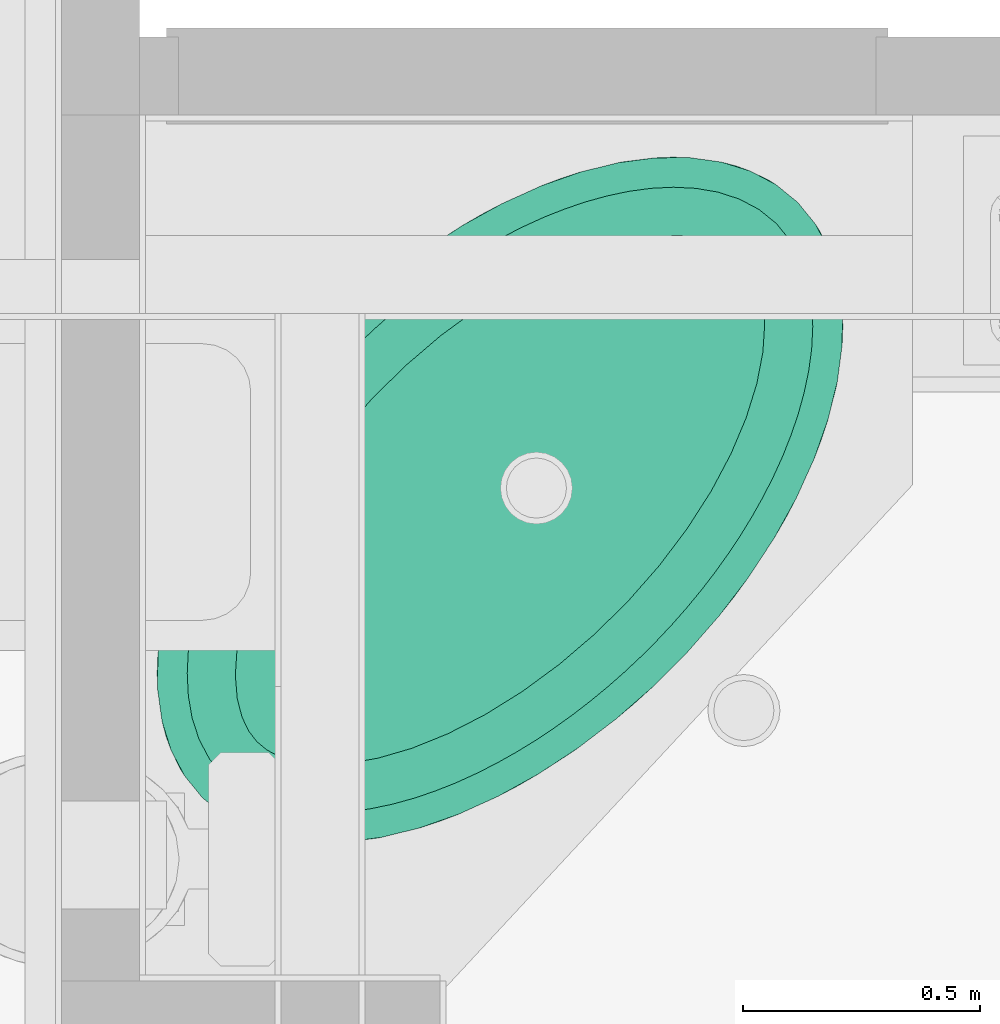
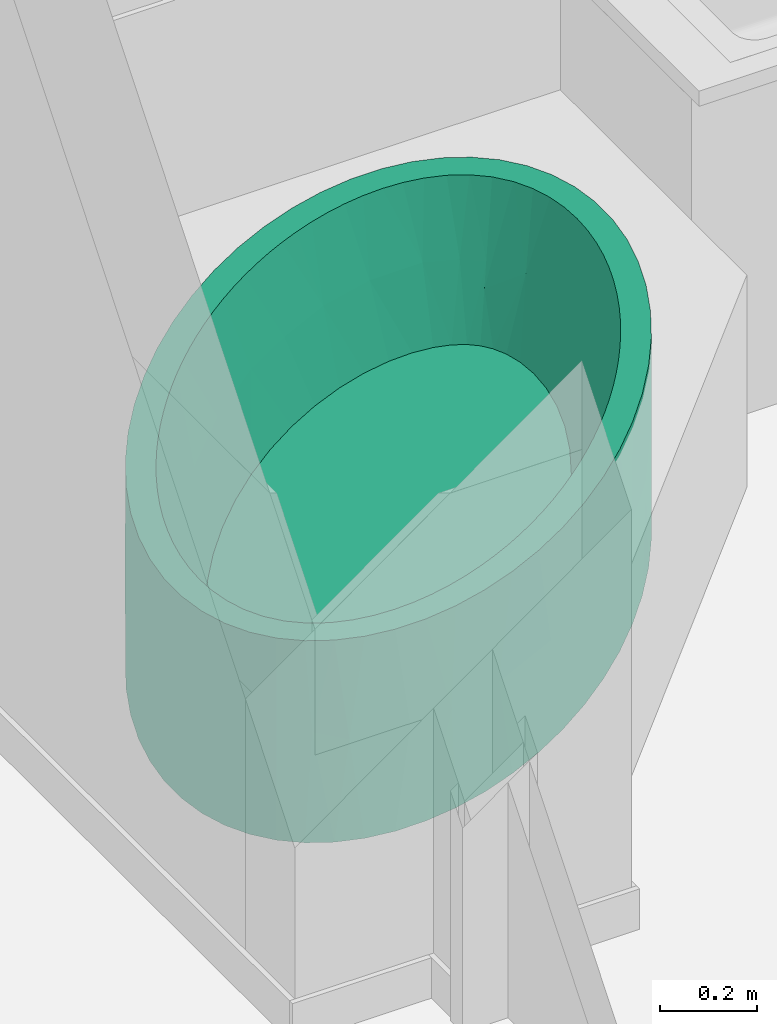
# One storey, part 46 of 60: 1 flow terminal.
"""IFC2X3 building model written with IfcOpenShell, lengths in feet."""

from ifc_helpers import new_model, entity, si_unit, converted_unit, direction, origin, place, context, subcontext, project, spatial, faceted_brep, source, transform, mapped, material, type_object, type_shapes, element, save


model = new_model("IFC2X3")

# Units and contexts
model_context = context("Model", 3, precision=0.0001, world=origin(), true_north=direction((6.123031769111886e-17, 1.0)))
plan_context = context("Plan", 3, precision=0.0001, world=origin(), true_north=direction((6.123031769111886e-17, 1.0)))
body_context = subcontext(model_context, "Body", "Model", "MODEL_VIEW")
ifc_project = project(units=[converted_unit("LENGTHUNIT", "FOOT", entity("IfcLengthMeasure", 0.3048), si_unit("LENGTHUNIT", "METRE"), dimensions=[1, 0, 0, 0, 0, 0, 0]), converted_unit("AREAUNIT", "SQUARE FOOT", entity("IfcAreaMeasure", 0.09290304), si_unit("AREAUNIT", "SQUARE_METRE"), dimensions=[2, 0, 0, 0, 0, 0, 0]), converted_unit("PLANEANGLEUNIT", "DEGREE", entity("IfcPlaneAngleMeasure", 0.017453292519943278), si_unit("PLANEANGLEUNIT", "RADIAN"), dimensions=[0, 0, 0, 0, 0, 0, 0])], contexts=[model_context, plan_context])

# Site, building, storey
site_placement = place(None, origin())
site = spatial("IfcSite", under=ifc_project, at=site_placement, Name="Default", CompositionType="ELEMENT")
building_placement = place(site_placement, origin())
building = spatial("IfcBuilding", under=site, at=building_placement, CompositionType="ELEMENT")
storey_placement = place(building_placement, origin())
storey = spatial("IfcBuildingStorey", under=building, at=storey_placement, Name="First floor", CompositionType="ELEMENT", Elevation=0.0)

# Flow terminal
ifc_material = material(Name="Default New Material")
distribution_element_type = type_object("IfcDistributionElementType", Name="Plumbing Fixtures 7:Plumbing Fixtures 7", material=ifc_material)
shared_shape = source(origin(), body_context, "Body", "Brep", [
    faceted_brep([(-5.095247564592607, 44.813153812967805, 12.458333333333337), (-5.172077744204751, 45.09890632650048, 12.458333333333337), (-5.32489495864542, 44.823074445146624, 12.458333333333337), (-5.165754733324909, 44.674755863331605, 12.458333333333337), (-5.0190866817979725, 44.94870035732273, 12.458333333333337), (-4.937772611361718, 45.0811677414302, 12.458333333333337), (-4.993579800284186, 45.37115108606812, 12.458333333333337), (-4.851811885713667, 45.210337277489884, 12.458333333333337), (-4.761263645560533, 45.33658212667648, 12.458333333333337), (-4.791815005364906, 45.636127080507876, 12.458333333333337), (-4.666420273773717, 45.459772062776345, 12.458333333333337), (-4.567684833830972, 45.579584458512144, 12.458333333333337), (-4.569511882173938, 45.890250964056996, 12.458333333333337), (-4.465059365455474, 45.69619392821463, 12.458333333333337), (-4.358737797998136, 45.80949730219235, 12.458333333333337), (-4.329676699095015, 46.13008614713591, 12.458333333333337), (-4.248910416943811, 45.91933755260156, 12.458333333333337), (-4.135607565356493, 46.02565695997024, 12.458333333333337), (-4.018994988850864, 46.12825436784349, 12.458333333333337), (-4.075552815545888, 46.352389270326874, 12.458333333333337), (-3.8991513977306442, 46.227008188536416, 12.458333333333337), (-3.7759899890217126, 46.32185741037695, 12.458333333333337), (-3.8105768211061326, 46.55415406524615, 12.458333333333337), (-3.649767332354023, 46.4124048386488, 12.458333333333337), (-3.520588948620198, 46.4983560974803, 12.458333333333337), (-3.538332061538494, 46.73265200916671, 12.458333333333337), (-3.3881228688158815, 46.57966483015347, 12.458333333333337), (-3.2525880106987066, 46.65582968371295, 12.458333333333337), (-3.2625001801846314, 46.88546922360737, 12.458333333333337), (-3.114174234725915, 46.72634321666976, 12.458333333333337), (-2.9729149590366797, 46.79071239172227, 12.458333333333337), (-2.986811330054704, 47.0105391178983, 12.458333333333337), (-2.828835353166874, 46.84831729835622, 12.458333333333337), (-2.714993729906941, 47.106170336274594, 12.458333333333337), (-2.681977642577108, 46.898430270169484, 12.458333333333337), (-2.5323411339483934, 46.94011665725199, 12.458333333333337), (-2.4507232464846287, 47.171069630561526, 12.458333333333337), (-2.3804158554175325, 46.972116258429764, 12.458333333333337), (-2.2263537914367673, 46.99295764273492, 12.458333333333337), (-2.197573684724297, 47.20435934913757, 12.458333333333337), (-2.071058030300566, 47.00067257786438, 12.458333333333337), (-1.9589684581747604, 47.20558930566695, 12.458333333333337), (-1.915940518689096, 46.99286653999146, 12.458333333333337), (-1.7381342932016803, 47.17474286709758, 12.458333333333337), (-1.7633028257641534, 46.966730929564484, 12.458333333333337), (-1.5380575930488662, 47.11223717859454, 12.458333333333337), (-1.6154089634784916, 46.91877368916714, 12.458333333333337), (-1.4783305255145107, 46.84646259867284, 12.458333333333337), (-1.3614440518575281, 47.01891752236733, 12.458333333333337), (-1.3579959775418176, 46.7487319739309, 12.458333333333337), (-1.2106820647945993, 46.896045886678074, 12.458333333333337), (-1.087810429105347, 46.745283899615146, 12.458333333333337), (-1.2602800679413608, 46.628386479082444, 12.458333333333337), (-0.9944907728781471, 46.5686703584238, 12.458333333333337), (-1.1879524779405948, 46.491321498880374, 12.458333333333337), (-1.1399931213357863, 46.343422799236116, 12.458333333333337), (-0.9319850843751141, 46.36859365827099, 12.458333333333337), (-1.1138565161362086, 46.190786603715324, 12.458333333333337), (-0.901138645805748, 46.147759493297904, 12.458333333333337), (-1.1060536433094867, 46.035667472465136, 12.458333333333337), (-0.9023686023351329, 45.90915426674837, 12.458333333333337), (-1.113764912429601, 45.88037183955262, 12.458333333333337), (-0.9356583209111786, 45.656004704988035, 12.458333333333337), (-1.134604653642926, 45.726309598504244, 12.458333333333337), (-1.1666320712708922, 45.57439536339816, 12.458333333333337), (-1.0005576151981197, 45.39173422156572, 12.458333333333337), (-1.2083345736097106, 45.42475506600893, 12.458333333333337), (-1.258418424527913, 45.2778924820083, 12.458333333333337), (-1.096188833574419, 45.11991662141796, 12.458333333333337), (-1.3160187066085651, 45.133808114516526, 12.458333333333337), (-1.2212587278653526, 44.84422777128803, 12.458333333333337), (-1.3803954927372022, 44.99255351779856, 12.458333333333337), (-1.4509102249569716, 44.85414074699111, 12.458333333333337), (-1.3740759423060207, 44.56839588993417, 12.458333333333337), (-1.5270670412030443, 44.718601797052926, 12.458333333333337), (-1.6083795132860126, 44.58613691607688, 12.458333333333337), (-1.5525738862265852, 44.29615113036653, 12.458333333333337), (-1.6943416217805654, 44.45696519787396, 12.458333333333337), (-1.7848779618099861, 44.33073633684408, 12.458333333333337), (-1.7543386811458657, 44.03117513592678, 12.458333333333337), (-1.879710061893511, 44.20755945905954, 12.458333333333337), (-1.9784669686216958, 44.08771996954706, 12.458333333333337), (-1.9766418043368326, 43.77705125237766, 12.458333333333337), (-2.0810815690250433, 43.971122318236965, 12.458333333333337), (-2.187401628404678, 43.85781963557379, 12.458333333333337), (-2.297228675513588, 43.74797880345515, 12.458333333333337), (-2.216476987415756, 43.537216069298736, 12.458333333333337), (-2.410531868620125, 43.6416582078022, 12.458333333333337), (-2.5271562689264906, 43.53904991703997, 12.458333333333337), (-2.4706008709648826, 43.314912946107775, 12.458333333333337), (-2.6469719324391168, 43.44031822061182, 12.458333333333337), (-2.7701496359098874, 43.34545526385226, 12.458333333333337), (-2.7355768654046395, 43.113148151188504, 12.458333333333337), (-2.8963842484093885, 43.25489883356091, 12.458333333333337), (-3.0255624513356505, 43.16894758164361, 12.458333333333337), (-3.0078216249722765, 42.93465020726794, 12.458333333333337), (-3.1580312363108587, 43.08763714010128, 12.458333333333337), (-3.2935739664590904, 43.01146808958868, 12.458333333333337), (-3.2836535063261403, 42.781832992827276, 12.458333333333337), (-3.4319718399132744, 42.94096267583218, 12.458333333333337), (-3.573173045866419, 42.8766179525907, 12.458333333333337), (-3.5593423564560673, 42.65676309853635, 12.458333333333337), (-3.7171627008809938, 42.81904268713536, 12.458333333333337), (-3.831159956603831, 42.561131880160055, 12.458333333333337), (-3.86434576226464, 42.76881919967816, 12.458333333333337), (-4.014060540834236, 42.72712464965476, 12.458333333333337), (-4.095430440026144, 42.49623258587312, 12.458333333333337), (-4.16605826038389, 42.695130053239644, 12.458333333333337), (-4.319883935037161, 42.674336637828, 12.458333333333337), (-4.348580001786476, 42.46294286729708, 12.458333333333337), (-4.474742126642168, 42.66663060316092, 12.458333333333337), (-4.587185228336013, 42.4617129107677, 12.458333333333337), (-4.630133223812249, 42.67442713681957, 12.458333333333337), (-4.808019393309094, 42.49255934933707, 12.458333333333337), (-4.783219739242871, 42.700660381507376, 12.458333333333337), (-5.0080960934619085, 42.55506503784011, 12.458333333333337), (-4.930597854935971, 42.748467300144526, 12.458333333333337), (-5.067875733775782, 42.820874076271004, 12.458333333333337), (-5.184709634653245, 42.64838469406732, 12.458333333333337), (-5.188157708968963, 42.918570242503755, 12.458333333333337), (-5.335471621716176, 42.771256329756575, 12.458333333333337), (-5.458343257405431, 42.92201831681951, 12.458333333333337), (-5.285840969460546, 43.03886595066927, 12.458333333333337), (-5.55166291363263, 43.09863185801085, 12.458333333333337), (-5.358263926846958, 43.17613122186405, 12.458333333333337), (-5.406071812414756, 43.32351216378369, 12.458333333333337), (-5.614168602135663, 43.29870855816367, 12.458333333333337), (-5.432305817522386, 43.476596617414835, 12.458333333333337), (-5.645015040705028, 43.51954272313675, 12.458333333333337), (-5.440099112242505, 43.63198604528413, 12.458333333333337), (-5.643785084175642, 43.75814794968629, 12.458333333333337), (-5.432396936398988, 43.786843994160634, 12.458333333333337), (-5.610495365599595, 44.01129751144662, 12.458333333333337), (-5.411605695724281, 43.940667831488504, 12.458333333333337), (-5.379582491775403, 44.09265928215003, 12.458333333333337), (-5.545596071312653, 44.275567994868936, 12.458333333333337), (-5.337872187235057, 44.242376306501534, 12.458333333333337), (-5.287677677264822, 44.38956495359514, 12.458333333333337), (-5.449964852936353, 44.5473855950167, 12.458333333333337), (-5.230107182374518, 44.53355899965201, 12.458333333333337), (-3.2836535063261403, 42.781832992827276, 10.791666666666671), (-3.5593423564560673, 42.65676309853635, 10.791666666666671), (-3.831159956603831, 42.561131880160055, 10.791666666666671), (-4.095430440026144, 42.49623258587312, 10.791666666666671), (-4.348580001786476, 42.46294286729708, 10.791666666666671), (-4.587185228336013, 42.4617129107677, 10.791666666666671), (-4.808019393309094, 42.49255934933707, 10.791666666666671), (-5.0080960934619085, 42.55506503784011, 10.791666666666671), (-5.184709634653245, 42.64838469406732, 10.791666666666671), (-5.3354716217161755, 42.771256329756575, 10.791666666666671), (-5.458343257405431, 42.92201831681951, 10.791666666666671), (-5.55166291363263, 43.09863185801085, 10.791666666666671), (-5.614168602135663, 43.29870855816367, 10.791666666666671), (-5.645015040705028, 43.51954272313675, 10.791666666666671), (-5.643785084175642, 43.75814794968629, 10.791666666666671), (-5.610495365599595, 44.01129751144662, 10.791666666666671), (-5.545596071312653, 44.275567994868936, 10.791666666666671), (-5.449964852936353, 44.5473855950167, 10.791666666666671), (-5.32489495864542, 44.823074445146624, 10.791666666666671), (-5.172077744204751, 45.09890632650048, 10.791666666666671), (-4.993579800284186, 45.37115108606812, 10.791666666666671), (-4.791815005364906, 45.636127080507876, 10.791666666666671), (-4.569511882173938, 45.890250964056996, 10.791666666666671), (-4.329676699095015, 46.13008614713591, 10.791666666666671), (-4.075552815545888, 46.352389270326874, 10.791666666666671), (-3.8105768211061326, 46.55415406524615, 10.791666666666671), (-3.538332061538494, 46.73265200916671, 10.791666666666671), (-3.2625001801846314, 46.88546922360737, 10.791666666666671), (-2.986811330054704, 47.0105391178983, 10.791666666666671), (-2.714993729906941, 47.106170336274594, 10.791666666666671), (-2.4507232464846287, 47.171069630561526, 10.791666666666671), (-2.197573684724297, 47.20435934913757, 10.791666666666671), (-1.9589684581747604, 47.20558930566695, 10.791666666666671), (-1.7381342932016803, 47.17474286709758, 10.791666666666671), (-1.5380575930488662, 47.11223717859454, 10.791666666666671), (-1.3614440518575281, 47.01891752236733, 10.791666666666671), (-1.2106820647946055, 46.89604588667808, 10.791666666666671), (-1.087810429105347, 46.745283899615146, 10.791666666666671), (-0.9944907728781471, 46.5686703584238, 10.791666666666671), (-0.9319850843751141, 46.36859365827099, 10.791666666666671), (-0.901138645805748, 46.147759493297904, 10.791666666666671), (-0.9023686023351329, 45.90915426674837, 10.791666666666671), (-0.9356583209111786, 45.656004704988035, 10.791666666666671), (-1.0005576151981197, 45.39173422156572, 10.791666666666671), (-1.096188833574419, 45.11991662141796, 10.791666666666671), (-1.2212587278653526, 44.84422777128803, 10.791666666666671), (-1.3740759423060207, 44.56839588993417, 10.791666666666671), (-1.5525738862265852, 44.29615113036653, 10.791666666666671), (-1.7543386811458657, 44.03117513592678, 10.791666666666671), (-1.9766418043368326, 43.77705125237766, 10.791666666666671), (-2.216476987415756, 43.537216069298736, 10.791666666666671), (-2.4706008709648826, 43.314912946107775, 10.791666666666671), (-2.7355768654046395, 43.113148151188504, 10.791666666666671), (-3.0078216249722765, 42.93465020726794, 10.791666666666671), (-1.635325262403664, 47.147404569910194, 11.625000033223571), (-5.603822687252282, 44.045141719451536, 11.624999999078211), (-2.0762461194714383, 47.20899303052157, 11.625000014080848), (-1.210682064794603, 46.89604588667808, 11.768640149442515), (-1.4035169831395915, 47.04522544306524, 11.706562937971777), (-2.4170675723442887, 47.177206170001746, 11.624999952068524), (-2.8501870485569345, 47.062124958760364, 11.625000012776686), (-3.4006319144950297, 46.8124083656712, 11.62500000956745), (-4.204190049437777, 46.24362316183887, 11.625000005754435), (-3.775473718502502, 46.57876025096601, 11.624999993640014), (-4.539219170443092, 45.92234938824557, 11.624999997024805), (-4.895442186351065, 45.50477452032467, 11.625000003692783), (-5.251834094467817, 44.96120619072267, 11.625000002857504), (-5.501550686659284, 44.41076133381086, 11.625000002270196), (-5.484651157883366, 42.96409121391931, 11.70656318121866), (-5.648418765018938, 43.63682048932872, 11.625000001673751), (-5.3354716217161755, 42.771256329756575, 11.768640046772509), (-5.586830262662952, 43.195899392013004, 11.625000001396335), (-4.91082842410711, 42.519897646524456, 11.625000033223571), (-0.9423309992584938, 45.62216049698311, 11.624999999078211), (-4.469907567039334, 42.45830918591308, 11.625000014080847), (-5.142636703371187, 42.6220767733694, 11.706562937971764), (-4.129086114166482, 42.490096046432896, 11.624999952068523), (-3.695966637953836, 42.605177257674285, 11.625000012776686), (-3.1455217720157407, 42.854893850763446, 11.62500000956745), (-2.341963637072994, 43.423679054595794, 11.625000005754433), (-2.7706799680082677, 43.08854196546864, 11.624999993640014), (-2.0069345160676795, 43.744952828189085, 11.624999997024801), (-1.6507115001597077, 44.162527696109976, 11.625000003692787), (-1.2943195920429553, 44.70609602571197, 11.625000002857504), (-1.0446029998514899, 45.256540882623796, 11.6250000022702), (-1.0615025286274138, 46.70321100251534, 11.706563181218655), (-0.8977349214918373, 46.030481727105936, 11.625000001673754), (-0.9593234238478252, 46.471402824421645, 11.625000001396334), (-3.633849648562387, 43.21432436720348, 11.291666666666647), (-3.376909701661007, 43.34614496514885, 11.291666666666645), (-3.1177743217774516, 43.50730029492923, 11.291666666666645), (-2.862174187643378, 43.695067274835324, 11.291666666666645), (-2.615423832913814, 43.90597379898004, 11.291666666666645), (-2.38258861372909, 44.13605378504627, 11.291666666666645), (-2.168188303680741, 44.38077796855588, 11.291666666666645), (-1.976310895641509, 44.63530676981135, 11.291666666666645), (-1.8105155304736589, 44.894199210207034, 11.291666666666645), (-1.6736216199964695, 45.1519644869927, 11.291666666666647), (-1.5677965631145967, 45.4023580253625, 11.291666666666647), (-1.4939339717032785, 45.63952526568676, 11.291666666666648), (-1.4518186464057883, 45.856701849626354, 11.291666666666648), (-1.4394129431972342, 46.04811141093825, 11.29166666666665), (-1.4525712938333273, 46.2087868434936, 11.291666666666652), (-1.4853382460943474, 46.33658235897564, 11.291666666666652), (-1.5315710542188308, 46.4338436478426, 11.291666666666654), (-1.5884002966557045, 46.50763350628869, 11.291666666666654), (-1.6590864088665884, 46.56637970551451, 11.291666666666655), (-1.7519809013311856, 46.61449668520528, 11.291666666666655), (-1.8743100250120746, 46.649864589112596, 11.291666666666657), (-2.0295442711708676, 46.66675713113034, 11.291666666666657), (-2.216155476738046, 46.65893796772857, 11.291666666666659), (-2.4294376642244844, 46.622005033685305, 11.291666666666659), (-2.663616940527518, 46.55353722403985, 11.29166666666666), (-2.9123053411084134, 46.45297655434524, 11.29166666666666), (-3.169245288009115, 46.32115595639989, 11.291666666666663), (-3.4283806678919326, 46.16000062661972, 11.291666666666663), (-3.6839808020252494, 45.97223364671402, 11.291666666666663), (-3.930731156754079, 45.761327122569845, 11.291666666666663), (-4.163566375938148, 45.53124713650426, 11.291666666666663), (-4.377966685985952, 45.286522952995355, 11.291666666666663), (-4.569844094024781, 45.03199415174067, 11.291666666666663), (-4.735639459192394, 44.77310171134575, 11.291666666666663), (-4.87253336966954, 44.51533643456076, 11.29166666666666), (-4.978358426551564, 44.26494289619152, 11.29166666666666), (-5.052221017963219, 44.02777565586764, 11.291666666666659), (-5.0943363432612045, 43.81059907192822, 11.291666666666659), (-5.10674204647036, 43.6191895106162, 11.291666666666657), (-5.093583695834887, 43.45851407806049, 11.291666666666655), (-5.060816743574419, 43.33071856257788, 11.291666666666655), (-5.014583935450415, 43.23345727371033, 11.291666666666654), (-4.957754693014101, 43.159667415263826, 11.291666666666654), (-4.887068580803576, 43.10092121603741, 11.291666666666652), (-4.794174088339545, 43.05280423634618, 11.291666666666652), (-4.67184496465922, 43.01743633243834, 11.29166666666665), (-4.516610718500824, 43.00054379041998, 11.29166666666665), (-4.329999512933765, 43.00836295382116, 11.291666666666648), (-4.116717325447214, 43.045295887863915, 11.291666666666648), (-3.8825380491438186, 43.11376369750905, 11.291666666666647), (-3.8545917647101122, 42.946046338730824, 11.878772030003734), (-1.3139585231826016, 45.67614357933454, 11.875848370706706), (-1.4466053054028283, 45.25807647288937, 11.869307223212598), (-4.27443099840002, 42.8453971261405, 11.881185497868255), (-1.2722672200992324, 46.09951736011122, 11.881304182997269), (-1.3162851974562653, 46.36421244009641, 11.883240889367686), (-1.5103376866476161, 46.589319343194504, 11.68694150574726), (-3.4502021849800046, 43.11999277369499, 11.868337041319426), (-3.0637360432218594, 43.34251579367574, 11.876269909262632), (-1.6387419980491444, 44.85682460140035, 11.878051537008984), (-1.8740449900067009, 44.484923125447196, 11.887953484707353), (-2.1651123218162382, 44.13028204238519, 11.867491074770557), (-4.686823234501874, 42.84754215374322, 11.885919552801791), (-5.035816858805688, 43.07798201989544, 11.68694149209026), (-2.590380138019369, 43.707495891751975, 11.867492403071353), (-4.928513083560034, 42.93055309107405, 11.87877579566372), (-5.072956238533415, 43.0391187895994, 11.875000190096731), (-1.4731980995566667, 46.62818277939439, 11.875000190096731), (-2.6915681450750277, 46.72124626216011, 11.87874849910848), (-5.232242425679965, 43.99088910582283, 11.87580977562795), (-5.099498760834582, 44.409327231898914, 11.869278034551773), (-2.271905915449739, 46.82188261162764, 11.881192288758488), (-5.273913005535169, 43.56797073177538, 11.88136540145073), (-5.229825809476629, 43.30301888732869, 11.883170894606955), (-3.0959526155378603, 46.54730887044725, 11.86833801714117), (-3.482416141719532, 46.324787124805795, 11.876269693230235), (-4.907414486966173, 44.810473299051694, 11.878051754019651), (-4.672105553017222, 45.18237942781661, 11.887944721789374), (-4.381035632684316, 45.53702785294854, 11.867493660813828), (-1.8594680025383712, 46.819762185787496, 11.88584528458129), (-3.9557655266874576, 45.95981226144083, 11.867489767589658), (-1.617613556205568, 46.736724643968, 11.878748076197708)], [[[0, 1, 2]], [[3, 0, 2]], [[4, 1, 0]], [[4, 5, 1]], [[1, 5, 6]], [[6, 5, 7]], [[7, 8, 6]], [[9, 6, 8]], [[8, 10, 9]], [[10, 11, 9]], [[11, 12, 9]], [[11, 13, 12]], [[13, 14, 12]], [[12, 14, 15]], [[16, 15, 14]], [[17, 15, 16]], [[17, 18, 15]], [[19, 15, 18]], [[18, 20, 19]], [[20, 21, 19]], [[21, 22, 19]], [[22, 21, 23]], [[24, 22, 23]], [[24, 25, 22]], [[25, 24, 26]], [[27, 25, 26]], [[27, 28, 25]], [[29, 28, 27]], [[29, 30, 28]], [[30, 31, 28]], [[32, 31, 30]], [[33, 31, 32]], [[34, 33, 32]], [[33, 34, 35]], [[33, 35, 36]], [[37, 36, 35]], [[38, 36, 37]], [[39, 36, 38]], [[39, 38, 40]], [[39, 40, 41]], [[42, 41, 40]], [[43, 41, 42]], [[42, 44, 43]], [[44, 45, 43]], [[46, 45, 44]], [[46, 47, 45]], [[47, 48, 45]], [[48, 47, 49]], [[48, 49, 50]], [[50, 49, 51]], [[52, 51, 49]], [[51, 52, 53]], [[52, 54, 53]], [[55, 53, 54]], [[55, 56, 53]], [[55, 57, 56]], [[56, 57, 58]], [[57, 59, 58]], [[59, 60, 58]], [[60, 59, 61]], [[60, 61, 62]], [[61, 63, 62]], [[64, 62, 63]], [[65, 62, 64]], [[65, 64, 66]], [[66, 67, 65]], [[65, 67, 68]], [[68, 67, 69]], [[70, 68, 69]], [[70, 69, 71]], [[71, 72, 70]], [[72, 73, 70]], [[72, 74, 73]], [[74, 75, 73]], [[75, 76, 73]], [[77, 76, 75]], [[77, 78, 76]], [[79, 76, 78]], [[80, 79, 78]], [[80, 81, 79]], [[81, 82, 79]], [[81, 83, 82]], [[84, 82, 83]], [[82, 84, 85]], [[85, 86, 82]], [[87, 86, 85]], [[87, 88, 86]], [[86, 88, 89]], [[88, 90, 89]], [[91, 89, 90]], [[89, 91, 92]], [[91, 93, 92]], [[93, 94, 92]], [[94, 95, 92]], [[96, 95, 94]], [[96, 97, 95]], [[95, 97, 98]], [[98, 97, 99]], [[99, 100, 98]], [[98, 100, 101]], [[100, 102, 101]], [[101, 102, 103]], [[103, 102, 104]], [[103, 104, 105]], [[103, 105, 106]], [[106, 105, 107]], [[107, 108, 106]], [[106, 108, 109]], [[110, 109, 108]], [[111, 109, 110]], [[112, 111, 110]], [[112, 113, 111]], [[113, 112, 114]], [[115, 113, 114]], [[115, 114, 116]], [[115, 116, 117]], [[117, 118, 115]], [[118, 117, 119]], [[119, 120, 118]], [[121, 120, 119]], [[119, 122, 121]], [[123, 121, 122]], [[122, 124, 123]], [[123, 124, 125]], [[126, 123, 125]], [[125, 127, 126]], [[128, 126, 127]], [[128, 127, 129]], [[129, 130, 128]], [[130, 129, 131]], [[132, 130, 131]], [[133, 132, 131]], [[134, 132, 133]], [[132, 134, 135]], [[135, 134, 136]], [[136, 137, 135]], [[137, 138, 135]], [[139, 138, 137]], [[3, 2, 139]], [[139, 2, 138]], [[140, 141, 142, 143, 144, 145, 146, 147, 148, 149, 150, 151, 152, 153, 154, 155, 156, 157, 158, 159, 160, 161, 162, 163, 164, 165, 166, 167, 168, 169, 170, 171, 172, 173, 174, 175, 176, 177, 178, 179, 180, 181, 182, 183, 184, 185, 186, 187, 188, 189, 190, 191, 192, 193]], [[43, 45, 194]], [[155, 195, 156]], [[173, 194, 174]], [[194, 196, 41]], [[48, 197, 198]], [[41, 196, 39]], [[43, 194, 41]], [[197, 175, 198]], [[199, 39, 196]], [[198, 194, 45]], [[199, 36, 39]], [[172, 196, 194]], [[31, 33, 200]], [[199, 200, 33]], [[25, 28, 201]], [[28, 31, 200]], [[202, 15, 19]], [[170, 169, 199]], [[203, 22, 25]], [[19, 203, 202]], [[168, 167, 201]], [[28, 200, 201]], [[204, 12, 15]], [[25, 201, 203]], [[1, 6, 205, 206]], [[197, 176, 175]], [[197, 48, 50]], [[172, 194, 173]], [[138, 2, 206, 207]], [[208, 121, 123]], [[126, 128, 209]], [[196, 171, 199]], [[195, 132, 135]], [[149, 210, 150]], [[120, 121, 210]], [[196, 172, 171]], [[174, 198, 175]], [[199, 169, 200]], [[168, 200, 169]], [[211, 208, 123]], [[174, 194, 198]], [[165, 203, 166]], [[168, 201, 200]], [[167, 166, 201]], [[201, 166, 203]], [[162, 204, 163]], [[202, 203, 164]], [[170, 199, 171]], [[163, 202, 164]], [[204, 15, 202]], [[165, 164, 203]], [[162, 161, 204]], [[205, 6, 9]], [[9, 204, 205]], [[206, 2, 1]], [[160, 159, 206, 205]], [[207, 135, 138]], [[158, 157, 207, 206]], [[155, 154, 195]], [[153, 152, 211]], [[208, 211, 151]], [[210, 208, 150]], [[209, 128, 130]], [[130, 195, 209]], [[211, 123, 126]], [[33, 36, 199]], [[19, 22, 203]], [[9, 12, 204]], [[208, 210, 121]], [[130, 132, 195]], [[211, 126, 209]], [[195, 135, 207]], [[204, 161, 205]], [[205, 161, 160]], [[206, 159, 158]], [[156, 207, 157]], [[156, 195, 207]], [[209, 195, 154]], [[153, 209, 154]], [[153, 211, 209]], [[152, 151, 211]], [[48, 198, 45]], [[150, 208, 151]], [[204, 202, 163]], [[113, 115, 212]], [[182, 213, 183]], [[146, 212, 147]], [[212, 214, 111]], [[118, 210, 215]], [[111, 214, 109]], [[113, 212, 111]], [[210, 148, 215]], [[216, 109, 214]], [[215, 212, 115]], [[216, 106, 109]], [[145, 214, 212]], [[101, 103, 217]], [[216, 217, 103]], [[95, 98, 218]], [[98, 101, 217]], [[219, 86, 89]], [[143, 142, 216]], [[220, 92, 95]], [[89, 220, 219]], [[141, 140, 218]], [[98, 217, 218]], [[221, 82, 86]], [[95, 218, 220]], [[73, 76, 222, 223]], [[210, 149, 148]], [[210, 118, 120]], [[145, 212, 146]], [[68, 70, 223, 224]], [[225, 51, 53]], [[56, 58, 226]], [[214, 144, 216]], [[213, 62, 65]], [[176, 197, 177]], [[50, 51, 197]], [[214, 145, 144]], [[147, 215, 148]], [[216, 142, 217]], [[141, 217, 142]], [[227, 225, 53]], [[147, 212, 215]], [[192, 220, 193]], [[141, 218, 217]], [[140, 193, 218]], [[218, 193, 220]], [[189, 221, 190]], [[219, 220, 191]], [[143, 216, 144]], [[190, 219, 191]], [[221, 86, 219]], [[192, 191, 220]], [[189, 188, 221]], [[222, 76, 79]], [[79, 221, 222]], [[223, 70, 73]], [[187, 186, 223, 222]], [[224, 65, 68]], [[185, 184, 224, 223]], [[182, 181, 213]], [[180, 179, 227]], [[225, 227, 178]], [[197, 225, 177]], [[226, 58, 60]], [[60, 213, 226]], [[227, 53, 56]], [[103, 106, 216]], [[89, 92, 220]], [[79, 82, 221]], [[225, 197, 51]], [[60, 62, 213]], [[227, 56, 226]], [[213, 65, 224]], [[221, 188, 222]], [[222, 188, 187]], [[223, 186, 185]], [[183, 224, 184]], [[183, 213, 224]], [[226, 213, 181]], [[180, 226, 181]], [[180, 227, 226]], [[179, 178, 227]], [[118, 215, 115]], [[177, 225, 178]], [[221, 219, 190]], [[228, 229, 230, 231, 232, 233, 234, 235, 236, 237, 238, 239, 240, 241, 242, 243, 244, 245, 246, 247, 248, 249, 250, 251, 252, 253, 254, 255, 256, 257, 258, 259, 260, 261, 262, 263, 264, 265, 266, 267, 268, 269, 270, 271, 272, 273, 274, 275, 276, 277]], [[105, 104, 278]], [[66, 64, 279]], [[280, 69, 67]], [[110, 108, 281]], [[61, 59, 282]], [[280, 67, 66]], [[283, 52, 284]], [[285, 229, 228]], [[280, 66, 279]], [[96, 94, 286]], [[69, 280, 71]], [[74, 287, 75]], [[71, 280, 287]], [[283, 54, 52]], [[288, 289, 80]], [[81, 80, 289]], [[289, 84, 83]], [[72, 287, 74]], [[116, 114, 290]], [[75, 287, 288]], [[271, 270, 291]], [[284, 244, 283]], [[75, 288, 77]], [[55, 283, 282]], [[78, 288, 80]], [[72, 71, 287]], [[234, 289, 288]], [[289, 85, 84]], [[55, 282, 57]], [[289, 234, 233]], [[61, 282, 279]], [[234, 288, 235]], [[88, 292, 90]], [[282, 59, 57]], [[77, 288, 78]], [[242, 282, 283]], [[242, 283, 243]], [[244, 284, 245]], [[282, 240, 279]], [[283, 55, 54]], [[237, 280, 238]], [[287, 236, 235]], [[239, 279, 240]], [[235, 288, 287]], [[81, 289, 83]], [[276, 275, 281]], [[229, 286, 230]], [[282, 241, 240]], [[287, 280, 237]], [[238, 280, 279]], [[239, 238, 279]], [[231, 230, 286]], [[279, 64, 63]], [[228, 277, 278]], [[236, 287, 237]], [[63, 61, 279]], [[292, 232, 231]], [[241, 282, 242]], [[292, 87, 85]], [[100, 99, 285]], [[100, 278, 102]], [[285, 278, 100]], [[94, 93, 286]], [[286, 285, 96]], [[97, 96, 285]], [[104, 102, 278]], [[114, 112, 290]], [[290, 293, 116]], [[117, 116, 293]], [[281, 105, 278]], [[112, 110, 290]], [[107, 281, 108]], [[110, 281, 290]], [[281, 107, 105]], [[119, 117, 294]], [[292, 88, 87]], [[292, 91, 90]], [[93, 91, 286]], [[292, 289, 233]], [[292, 85, 289]], [[271, 293, 272]], [[292, 233, 232]], [[292, 231, 286]], [[243, 283, 244]], [[292, 286, 91]], [[52, 49, 295]], [[286, 229, 285]], [[281, 274, 290]], [[290, 272, 293]], [[290, 273, 272]], [[285, 99, 97]], [[277, 276, 278]], [[278, 276, 281]], [[278, 285, 228]], [[293, 294, 117]], [[275, 274, 281]], [[271, 294, 293]], [[273, 290, 274]], [[35, 34, 296]], [[136, 134, 297]], [[298, 139, 137]], [[40, 38, 299]], [[131, 129, 300]], [[298, 137, 136]], [[301, 122, 291]], [[302, 254, 253]], [[298, 136, 297]], [[26, 24, 303]], [[139, 298, 3]], [[4, 304, 5]], [[3, 298, 304]], [[301, 124, 122]], [[305, 306, 10]], [[11, 10, 306]], [[306, 14, 13]], [[0, 304, 4]], [[46, 44, 307]], [[5, 304, 305]], [[246, 245, 284]], [[291, 269, 301]], [[5, 305, 7]], [[125, 301, 300]], [[8, 305, 10]], [[0, 3, 304]], [[259, 306, 305]], [[16, 14, 308]], [[125, 300, 127]], [[306, 259, 258]], [[131, 300, 297]], [[259, 305, 260]], [[18, 308, 20]], [[300, 129, 127]], [[7, 305, 8]], [[267, 300, 301]], [[267, 301, 268]], [[269, 291, 270]], [[300, 265, 297]], [[301, 125, 124]], [[262, 298, 263]], [[304, 261, 260]], [[264, 297, 265]], [[260, 305, 304]], [[11, 306, 13]], [[251, 250, 299]], [[254, 303, 255]], [[300, 266, 265]], [[304, 298, 262]], [[263, 298, 297]], [[264, 263, 297]], [[256, 255, 303]], [[297, 134, 133]], [[253, 252, 296]], [[261, 304, 262]], [[133, 131, 297]], [[308, 257, 256]], [[266, 300, 267]], [[306, 258, 257]], [[30, 29, 302]], [[30, 296, 32]], [[302, 296, 30]], [[24, 23, 303]], [[303, 302, 26]], [[27, 26, 302]], [[34, 32, 296]], [[44, 42, 307]], [[307, 309, 46]], [[47, 46, 309]], [[299, 35, 296]], [[42, 40, 307]], [[37, 299, 38]], [[40, 299, 307]], [[299, 37, 35]], [[49, 47, 295]], [[308, 18, 17]], [[308, 21, 20]], [[23, 21, 303]], [[308, 17, 16]], [[306, 308, 14]], [[246, 309, 247]], [[306, 257, 308]], [[308, 256, 303]], [[268, 301, 269]], [[308, 303, 21]], [[122, 119, 294]], [[303, 254, 302]], [[299, 249, 307]], [[307, 247, 309]], [[307, 248, 247]], [[302, 29, 27]], [[252, 251, 296]], [[296, 251, 299]], [[296, 302, 253]], [[309, 295, 47]], [[250, 249, 299]], [[246, 295, 309]], [[248, 307, 249]], [[271, 291, 294]], [[52, 295, 284]], [[246, 284, 295]], [[122, 294, 291]]]),
])
type_shapes(distribution_element_type, [shared_shape])
flow_terminal_placement = place(storey_placement, origin())
element("IfcFlowTerminal", 1, at=flow_terminal_placement, inside=storey, type_object=distribution_element_type, material=ifc_material, Name="Plumbing Fixtures 7:Plumbing Fixtures 7", ObjectType="Plumbing Fixtures 7:Plumbing Fixtures 7", context=body_context, shape_type="MappedRepresentation", body=[
    mapped(shared_shape, transform((0.0, 0.0, 0.0), scale=1.0)),
])

save(model, "model.ifc")
